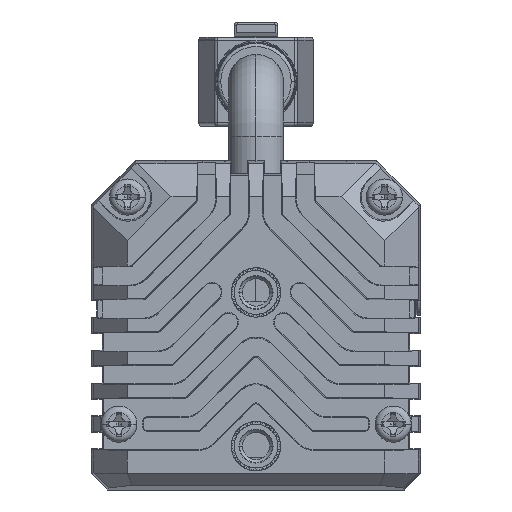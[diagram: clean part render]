
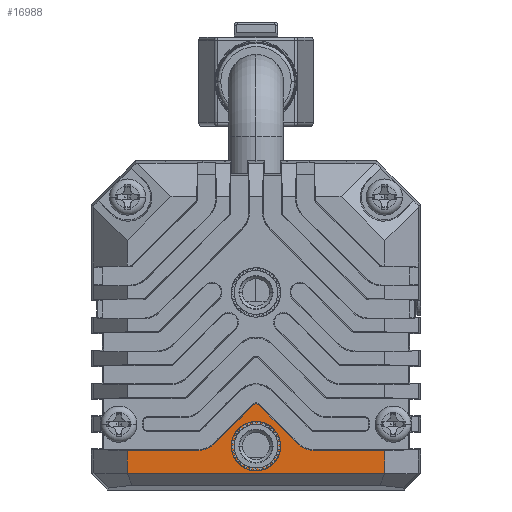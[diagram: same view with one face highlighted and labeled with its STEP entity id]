
A CAD part, left-side view. The second image highlights one B-rep face of the part: STEP entity #16988.
In plain terms, the highlighted planar face has unit normal (-1, 0, 0) as drawn and (1, 0, 0) by its records, which use the part's own axes.
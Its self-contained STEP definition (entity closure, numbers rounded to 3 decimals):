
#9896=CARTESIAN_POINT('',(5.,0.,7.527));
#9897=DIRECTION('',(1.,0.,0.));
#9898=DIRECTION('',(0.,0.707,0.707));
#9899=AXIS2_PLACEMENT_3D('',#9896,#9897,#9898);
#9905=DIRECTION('',(0.,0.707,-0.707));
#9906=VECTOR('',#9905,5.013);
#9907=CARTESIAN_POINT('',(5.,0.242,7.769));
#9908=LINE('',#9907,#9906);
#9912=DIRECTION('',(0.,-1.,0.));
#9913=VECTOR('',#9912,6.438);
#9914=CARTESIAN_POINT('',(5.,11.75,3.593));
#9915=LINE('',#9914,#9913);
#9919=DIRECTION('',(0.,0.,1.));
#9920=VECTOR('',#9919,2.093);
#9921=CARTESIAN_POINT('',(5.,11.75,1.5));
#9922=LINE('',#9921,#9920);
#9926=DIRECTION('',(0.,1.,0.));
#9927=VECTOR('',#9926,23.5);
#9928=CARTESIAN_POINT('',(5.,-11.75,1.5));
#9929=LINE('',#9928,#9927);
#9933=DIRECTION('',(0.,0.,-1.));
#9934=VECTOR('',#9933,2.093);
#9935=CARTESIAN_POINT('',(5.,-11.75,3.593));
#9936=LINE('',#9935,#9934);
#9940=DIRECTION('',(0.,1.,0.));
#9941=VECTOR('',#9940,6.438);
#9942=CARTESIAN_POINT('',(5.,-11.75,3.593));
#9943=LINE('',#9942,#9941);
#9947=DIRECTION('',(0.,0.707,0.707));
#9948=VECTOR('',#9947,5.013);
#9949=CARTESIAN_POINT('',(5.,-3.787,4.225));
#9950=LINE('',#9949,#9948);
#9954=CARTESIAN_POINT('',(5.,0.,4.));
#9955=DIRECTION('',(1.,0.,0.));
#9956=DIRECTION('',(0.,1.,0.));
#9957=AXIS2_PLACEMENT_3D('',#9954,#9955,#9956);
#9962=CARTESIAN_POINT('',(5.,0.,4.));
#9963=DIRECTION('',(1.,0.,0.));
#9964=DIRECTION('',(0.,-1.,0.));
#9965=AXIS2_PLACEMENT_3D('',#9962,#9963,#9964);
#10691=CARTESIAN_POINT('',(5.,-5.312,5.75));
#10692=DIRECTION('',(-1.,0.,0.));
#10693=DIRECTION('',(0.,0.707,-0.707));
#10694=AXIS2_PLACEMENT_3D('',#10691,#10692,#10693);
#14210=CARTESIAN_POINT('',(5.,5.312,5.75));
#14211=DIRECTION('',(-1.,0.,0.));
#14212=DIRECTION('',(0.,0.,-1.));
#14213=AXIS2_PLACEMENT_3D('',#14210,#14211,#14212);
#15883=CARTESIAN_POINT('',(5.,2.,4.));
#15884=CARTESIAN_POINT('',(5.,-2.,4.));
#15885=VERTEX_POINT('',#15883);
#15886=VERTEX_POINT('',#15884);
#15887=CARTESIAN_POINT('',(5.,-11.75,1.5));
#15888=CARTESIAN_POINT('',(5.,11.75,1.5));
#15889=VERTEX_POINT('',#15887);
#15890=VERTEX_POINT('',#15888);
#15989=CARTESIAN_POINT('',(5.,5.312,3.593));
#15990=VERTEX_POINT('',#15989);
#15991=CARTESIAN_POINT('',(5.,3.787,4.225));
#15992=VERTEX_POINT('',#15991);
#15997=CARTESIAN_POINT('',(5.,-3.787,4.225));
#15998=VERTEX_POINT('',#15997);
#15999=CARTESIAN_POINT('',(5.,-5.312,3.593));
#16000=VERTEX_POINT('',#15999);
#16077=CARTESIAN_POINT('',(5.,-11.75,3.593));
#16078=VERTEX_POINT('',#16077);
#16079=CARTESIAN_POINT('',(5.,11.75,3.593));
#16080=VERTEX_POINT('',#16079);
#16097=CARTESIAN_POINT('',(5.,0.242,7.769));
#16098=CARTESIAN_POINT('',(5.,-0.242,7.769));
#16099=VERTEX_POINT('',#16097);
#16100=VERTEX_POINT('',#16098);
#16955=CARTESIAN_POINT('',(5.,0.,0.));
#16956=DIRECTION('',(1.,0.,0.));
#16957=DIRECTION('',(0.,1.,0.));
#16958=AXIS2_PLACEMENT_3D('',#16955,#16956,#16957);
#16959=PLANE('',#16958);
#16961=ORIENTED_EDGE('',*,*,#16960,.F.);
#16963=ORIENTED_EDGE('',*,*,#16962,.T.);
#16965=ORIENTED_EDGE('',*,*,#16964,.F.);
#16967=ORIENTED_EDGE('',*,*,#16966,.F.);
#16969=ORIENTED_EDGE('',*,*,#16968,.F.);
#16971=ORIENTED_EDGE('',*,*,#16970,.F.);
#16973=ORIENTED_EDGE('',*,*,#16972,.F.);
#16975=ORIENTED_EDGE('',*,*,#16974,.T.);
#16977=ORIENTED_EDGE('',*,*,#16976,.F.);
#16979=ORIENTED_EDGE('',*,*,#16978,.T.);
#16980=EDGE_LOOP('',(#16961,#16963,#16965,#16967,#16969,#16971,#16973,#16975,
#16977,#16979));
#16981=FACE_OUTER_BOUND('',#16980,.F.);
#16983=ORIENTED_EDGE('',*,*,#16982,.T.);
#16985=ORIENTED_EDGE('',*,*,#16984,.T.);
#16986=EDGE_LOOP('',(#16983,#16985));
#16987=FACE_BOUND('',#16986,.F.);
#9900=CIRCLE('',#9899,0.343);
#9958=CIRCLE('',#9957,2.);
#9966=CIRCLE('',#9965,2.);
#10695=CIRCLE('',#10694,2.157);
#14214=CIRCLE('',#14213,2.157);
#16960=EDGE_CURVE('',#16099,#16100,#9900,.T.);
#16962=EDGE_CURVE('',#16099,#15992,#9908,.T.);
#16964=EDGE_CURVE('',#15990,#15992,#14214,.T.);
#16966=EDGE_CURVE('',#16080,#15990,#9915,.T.);
#16968=EDGE_CURVE('',#15890,#16080,#9922,.T.);
#16970=EDGE_CURVE('',#15889,#15890,#9929,.T.);
#16972=EDGE_CURVE('',#16078,#15889,#9936,.T.);
#16974=EDGE_CURVE('',#16078,#16000,#9943,.T.);
#16976=EDGE_CURVE('',#15998,#16000,#10695,.T.);
#16978=EDGE_CURVE('',#15998,#16100,#9950,.T.);
#16982=EDGE_CURVE('',#15885,#15886,#9958,.T.);
#16984=EDGE_CURVE('',#15886,#15885,#9966,.T.);
#16988=ADVANCED_FACE('',(#16981,#16987),#16959,.T.);
